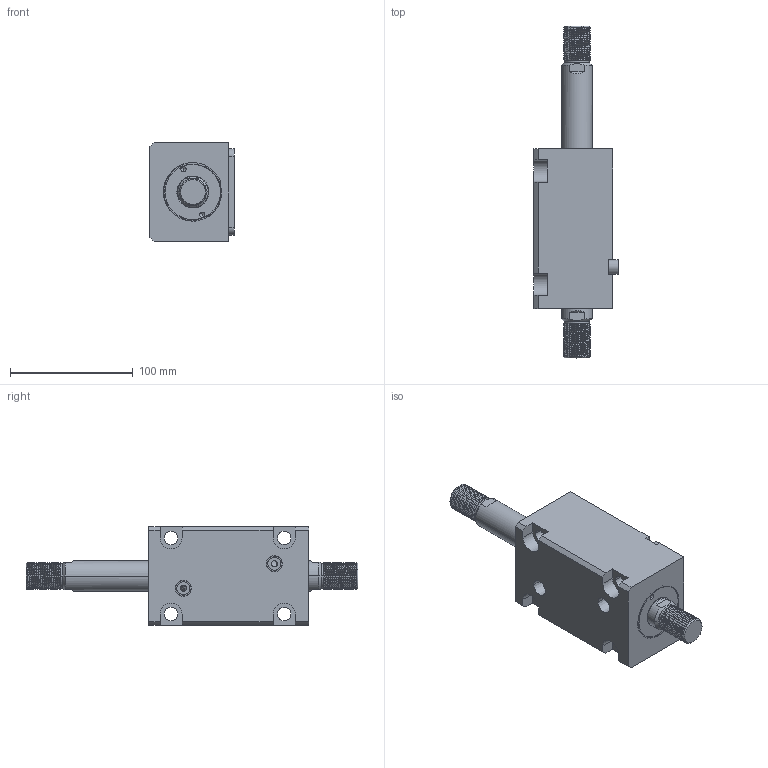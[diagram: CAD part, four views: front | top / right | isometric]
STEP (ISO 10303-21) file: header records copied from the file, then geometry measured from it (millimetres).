
FILE_DESCRIPTION (( 'STEP AP214' ), '1' );
FILE_NAME ('chtb-lw40x60w_asm.STEP', '2018-06-04T08:17:17', ( 'Windows' ), ( 'Microsoft' ), 'SwSTEP 2.0', 'SolidWorks 2015', '' );
FILE_SCHEMA (( 'AUTOMOTIVE_DESIGN' ));
Length unit declared in the file: millimetre
Products named in the file (5): CHTB-SW40X60NHSG; CHTB-SD40QG; CHTB-LW40X60NBT; CHTB-LA40PJ; chtb-lw40x60w_asm
Assembly tree (4 placements, depth 2):
  chtb-lw40x60w_asm
    CHTB-LA40PJ
    CHTB-LW40X60NBT
    CHTB-SD40QG
    CHTB-SW40X60NHSG
Bounding box: 68.5 x 270 x 80 mm (x, y, z)
Volume: 643617.3 mm3; surface area: 111205.5 mm2
Topology: 4 solids, 4 shells, 258 faces, 711 edges, 473 vertices
Faces by surface type: cylinder 152, plane 59, bspline 18, cone 17, torus 12
Entity records: 17539 total; most frequent: CARTESIAN_POINT 11292, ORIENTED_EDGE 1410, DIRECTION 1124, EDGE_CURVE 705, VERTEX_POINT 473, AXIS2_PLACEMENT_3D 433, EDGE_LOOP 292, LINE 258
